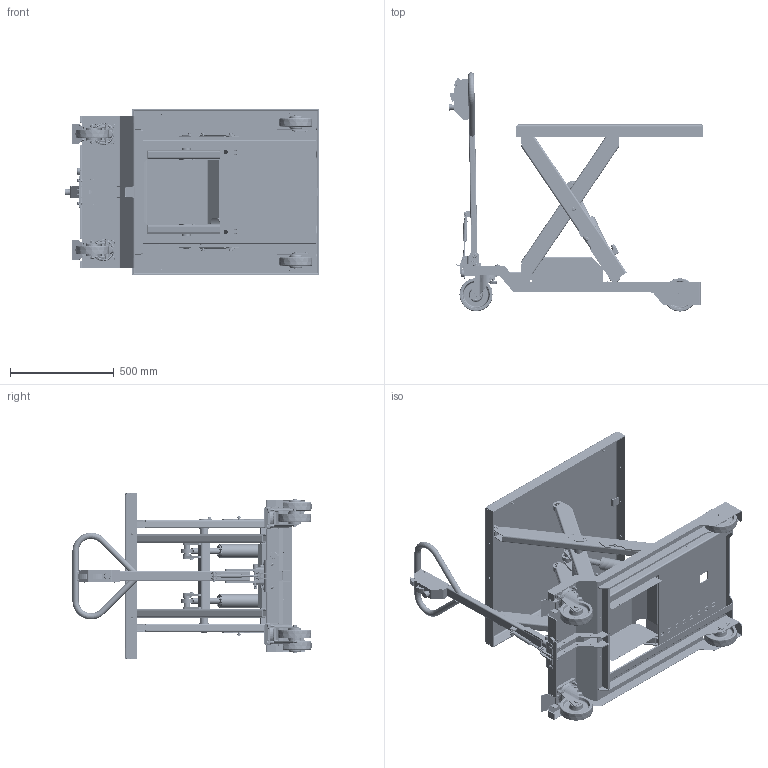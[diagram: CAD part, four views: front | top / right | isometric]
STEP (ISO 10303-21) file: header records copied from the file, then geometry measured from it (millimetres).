
FILE_DESCRIPTION(/* description */ ('EZ 1001B'),/* implementation_level */ '2;1');
FILE_NAME(/* name */ 'C:\Autodesk_VaultWork\Ritningar\Exporterade modeller\EZ 1001B - (610490)\610490_Raised.stp',/* time_stamp */ '2020-06-02T08:33:59+02:00',/* author */ ('andmo'),/* organization */ (''),/* preprocessor_version */ 'ST-DEVELOPER v16.5',/* originating_system */ 'Autodesk Inventor 2017',/* authorisation */ '');
FILE_SCHEMA (('AUTOMOTIVE_DESIGN { 1 0 10303 214 3 1 1 }'));
Products named in the file (134): 610490; 610486; 610479; 610483; 610485; 610893; 610544; 610384; 610540; 610547; 610550; 84186; 608178; 608175; 608176; 82153 - 850; 82729 - 320; 44669; 608177; 600324; 609728; 608171; 608170; 82153 - 850_1; 608173; 608172; 82156; 608185; 82155 - 550; 44411; 614462; 614461; 45258; ISO 4014 - M8 x 50; 42394; 32954; 610632; 610625; 610635; 610633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
Assembly tree (270 placements, depth 5):
  610490
    610486
      610479
      610483
      610485
      610893
      45258  x2
      610540  x2
      610544  x2
      610384
      610547
      610550  x2
      84186  x4
    608178
      608175
        608176  x2
          82153 - 850
        82729 - 320
        44669  x2
        608177  x4
        600324  x2
        609728  x2
      608171
        608170  x2
          82153 - 850_1
        608173
        608172
      82156  x2
      608185
        82155 - 550
        44411
      82021
    614462
      614461
      45258  x2
      ISO 4014 - M8 x 50  x4
      42394  x2
    32954  x2
    610662  x2
      602847
      610663
    610632
      610625
      610635
      610633  x2
    70015  x10
    83204
    86299
      Gasspring-G19-0060-1-0225-AS30-AS30-400N-Aratron
        End-Fitting-AS-Aratron_End-Fitting-AS30-Aratron  x2
        Piston-Rod-G19-Aratron_Piston-Rod-G19-Aratron
        Cylinder-G19-Aratron_Cylinder-G19-Aratron
    42584  x4
    42513  x8
    42401  x2
    83242  x2
    83209  x17
    84409  x8
    83241  x6
    82021  x4
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Bounding box: 1225.75 x 1151.92 x 800.2 mm (x, y, z)
Volume: 20448453.4 mm3; surface area: 8611347.2 mm2
Topology: 265 solids, 269 shells, 7167 faces, 17803 edges, 11479 vertices
Faces by surface type: plane 3591, cylinder 2417, cone 736, torus 302, bspline 95, sphere 26
Full cylindrical faces by diameter (mm): 0.217 x1, 0.5 x2, 0.8 x8, 0.9 x8, 1.4 x4, 1.478 x1, 1.6 x7, 1.9 x2, 2.25 x8, 2.459 x2, 2.5 x4, 2.9 x2, 4.567 x8, 4.7 x8, 5 x32, 5.4 x2, 5.6 x10, 6 x12, 6.2 x4, 6.466 x2, 6.647 x6, 7 x21, 7.4 x12, 8 x51, 8.1 x2, 8.376 x17, 8.4 x4, 8.6 x1, 9 x4, 9.42 x2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
Entity records: 120221 total; most frequent: CARTESIAN_POINT 26265, DIRECTION 19448, ORIENTED_EDGE 17620, EDGE_CURVE 8807, AXIS2_PLACEMENT_3D 7098, VERTEX_POINT 6020, LINE 5252, VECTOR 5252
